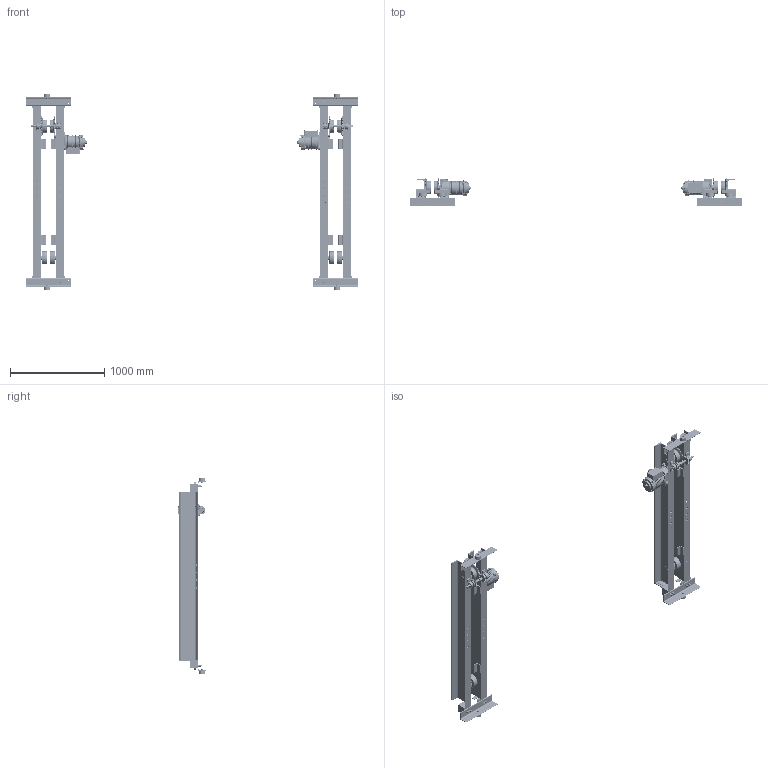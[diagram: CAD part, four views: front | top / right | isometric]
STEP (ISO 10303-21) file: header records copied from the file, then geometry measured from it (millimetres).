
FILE_DESCRIPTION (( 'STEP AP214' ), '1' );
FILE_NAME ('UMH-3-0550.STEP', '2026-08-11T17:36:09', ( '' ), ( '' ), 'SwSTEP 2.0', 'SolidWorks 2026', '' );
FILE_SCHEMA (( 'AUTOMOTIVE_DESIGN' ));
Length unit declared in the file: inch
Products named in the file (86): 9093424_9093424; 6257002_A308-308-006; 6234701X_6234701B; 6257003; G1JE040S9401; MC08-021.4_70; G1CM075T_NORMAL; 9012515_9012515; G1JE075S9604; 6232603; 9012514_9012514; 6257005; N6QL210115; 6232404; 6232304; 6234503; 9012709_Rectangular section spring washer BS 4464 - 16 (Type B); N6QL5301101; 9093433_9093433; 9093427_9093427; N6QO310E9108_N6QO3101108 DOMESTIC; G1JE075S9603; G1JE040S9701; N6QL530E9101_Domestic; 9091273_9091273; G1JE040S9310; 9047252_9047252; 9012707_9012707; N6QL210116; 9047140_9047140; 9091256_B18.3.1M - 6 x 1.0 x 50 Hex SHCS -- 24CHX; N6QL210209; 62341XXU_6234114U; 9012711_9012711; 6234702X_6234702B; 62339XXU_6233909U; 9000605; 9798526_9798526; 9047125_B27.7M - 3AM1-23; 6233203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
Assembly tree (383 placements, depth 5):
  UMH-3-0550
    62341XXU_6234114U
      62338XXU_6233809U
        MC08-021.4_70
        6257003
          6257002_A308-308-006
          6257001
        6257003
          6257002_A308-308-006
          6257001
      6232303  x2
      6232304  x2
      5204405_5204405  x2
      6233203  x2
      6257005
    62342XXU_6234214U  x2
      62339XXU_6233909U
        MC08-021.4_70
        6257003
          6257002_A308-308-006
          6257001
        6257003
          6257002_A308-308-006
          6257001
      6232303
      6232304
      5204405_5204405
      6233203
    62343XXU_6234314U
      62340XXU_6234011U
        MC08-021.4_70
        6257003
          6257002_A308-308-006
          6257001
        6257003
          6257002_A308-308-006
          6257001
      6232303  x2
      6232304  x2
      5204405_5204405  x2
      6233203  x2
      6257005
    6234503  x4
      6232603
      9047268_B27.7M - 3BM1-68
      9000508
    6232403  x8
    9047140_9047140  x8
    N6QL5301101  x4
      N6QL530E9101_Domestic
      9047268_B27.7M - 3BM1-68
      9000508
    6232404  x8
    9047125_B27.7M - 3AM1-23  x8
    9012515_9012515  x16
    9093433_9093433  x32
    9093146_9093146  x8
    N6QL210207  x4
    9012514_9012514  x12
    9093101_9093101  x4
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Bounding box: 3519.98 x 302.93 x 2084.61 mm (x, y, z)
Volume: 48381612.4 mm3; surface area: 9840848 mm2
Topology: 406 solids, 502 shells, 26772 faces, 69790 edges, 45218 vertices
Faces by surface type: plane 13272, cylinder 7286, cone 3278, bspline 1898, torus 862, sphere 176
Entity records: 191705 total; most frequent: CARTESIAN_POINT 61127, ORIENTED_EDGE 26912, DIRECTION 26078, EDGE_CURVE 13460, AXIS2_PLACEMENT_3D 10069, VERTEX_POINT 8633, LINE 5940, VECTOR 5940
